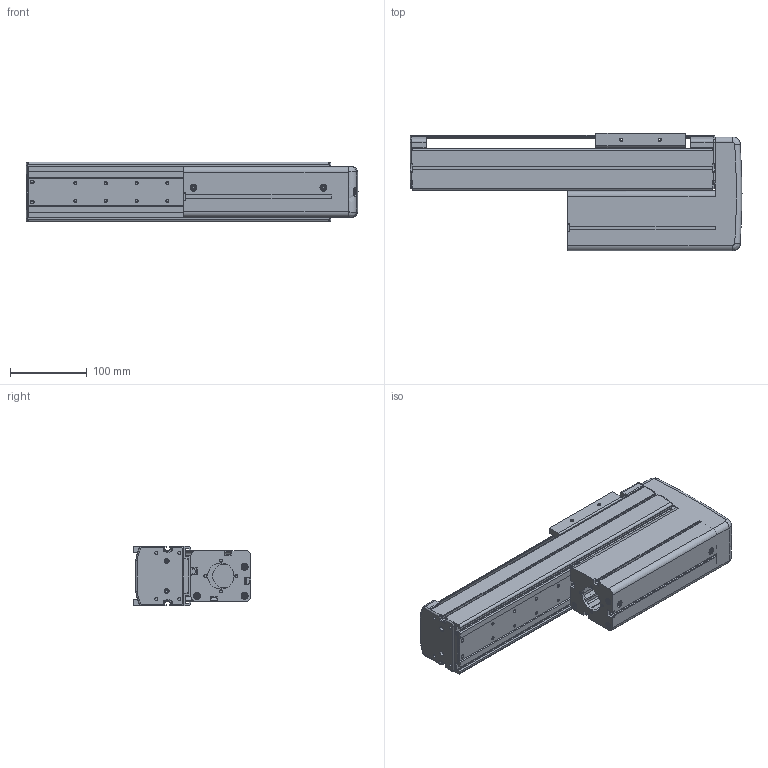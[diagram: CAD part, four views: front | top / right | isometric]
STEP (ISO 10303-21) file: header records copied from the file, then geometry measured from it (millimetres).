
FILE_DESCRIPTION((''),'2;1');
FILE_NAME('BE10E-UU-M_B-20_IGS_PRT','2017-06-17T',(' '),(''),'PRO/ENGINEER BY PARAMETRIC TECHNOLOGY CORPORATION, 2015030','PRO/ENGINEER BY PARAMETRIC TECHNOLOGY CORPORATION, 2015030','');
FILE_SCHEMA(('CONFIG_CONTROL_DESIGN'));
Length unit declared in the file: millimetre
Products named in the file (1): BE10E-UU-M_B-20_IGS_PRT
Bounding box: 432 x 153 x 78 mm (x, y, z)
Volume: 922589.5 mm3; surface area: 608941.2 mm2
Topology: 2 solids, 90 shells, 1696 faces, 4570 edges, 2941 vertices
Faces by surface type: cylinder 773, plane 695, cone 81, torus 71, sphere 44, bspline 32
Entity records: 55249 total; most frequent: CARTESIAN_POINT 11658, DIRECTION 9444, ORIENTED_EDGE 8736, EDGE_CURVE 4536, AXIS2_PLACEMENT_3D 3479, VERTEX_POINT 2941, VECTOR 2486, LINE 2486
